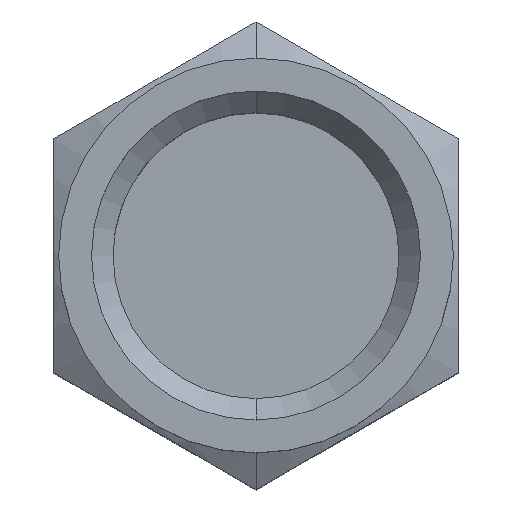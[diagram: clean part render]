
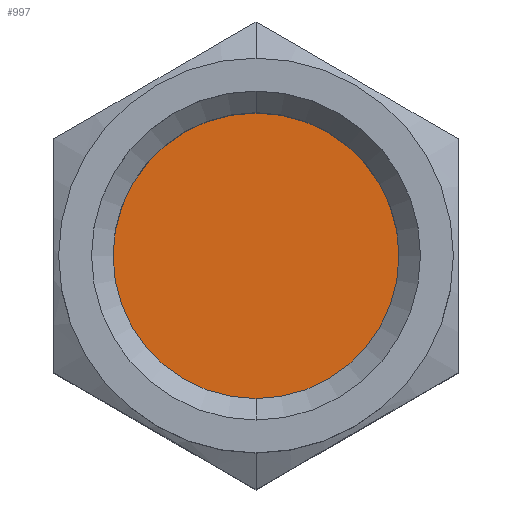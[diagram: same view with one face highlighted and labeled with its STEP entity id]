
A CAD part, top view. The second image highlights one B-rep face of the part: STEP entity #997.
In plain terms, the highlighted planar face has unit normal (0, 0, 1).
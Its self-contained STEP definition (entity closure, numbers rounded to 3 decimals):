
#468=CARTESIAN_POINT('',(0.,0.,-5.5));
#469=DIRECTION('',(0.,0.,-1.));
#470=DIRECTION('',(0.,1.,0.));
#471=AXIS2_PLACEMENT_3D('',#468,#469,#470);
#473=CARTESIAN_POINT('',(0.,0.,-5.5));
#474=DIRECTION('',(0.,0.,1.));
#475=DIRECTION('',(0.,1.,0.));
#476=AXIS2_PLACEMENT_3D('',#473,#474,#475);
#484=CARTESIAN_POINT('',(0.,2.825,-5.5));
#485=VERTEX_POINT('',#484);
#502=CARTESIAN_POINT('',(0.,-2.825,-5.5));
#503=VERTEX_POINT('',#502);
#988=CARTESIAN_POINT('',(0.,0.,-5.5));
#989=DIRECTION('',(0.,0.,1.));
#990=DIRECTION('',(0.,1.,0.));
#991=AXIS2_PLACEMENT_3D('',#988,#989,#990);
#992=PLANE('',#991);
#993=ORIENTED_EDGE('',*,*,#970,.T.);
#994=ORIENTED_EDGE('',*,*,#981,.F.);
#995=EDGE_LOOP('',(#993,#994));
#996=FACE_OUTER_BOUND('',#995,.F.);
#997=ADVANCED_FACE('',(#996),#992,.T.);
#472=CIRCLE('',#471,2.825);
#477=CIRCLE('',#476,2.825);
#970=EDGE_CURVE('',#485,#503,#472,.T.);
#981=EDGE_CURVE('',#485,#503,#477,.T.);
